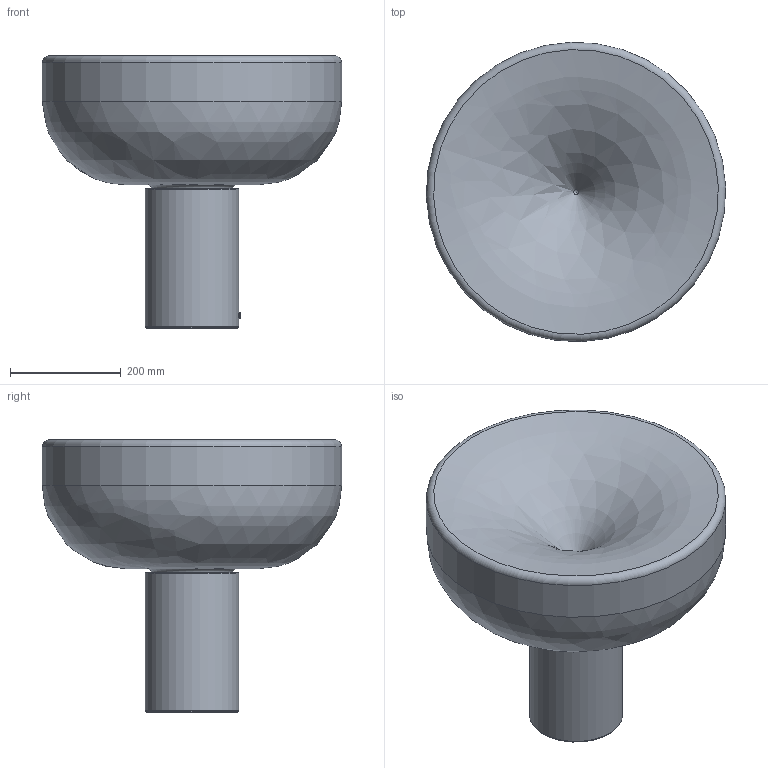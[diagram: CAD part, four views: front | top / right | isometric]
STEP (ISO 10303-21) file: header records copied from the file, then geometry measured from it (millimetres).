
FILE_DESCRIPTION(/* description */ ('AELLA T54'),/* implementation_level */ '2;1');
FILE_NAME(/* name */ '00500MT1LD0 - AELLA T54 - SEMPLIFICATA.stp',/* time_stamp */ '2023-05-03T12:29:23+02:00',/* author */ ('davide.turci'),/* organization */ (''),/* preprocessor_version */ 'ST-DEVELOPER v19.2',/* originating_system */ 'Autodesk Inventor 2023',/* authorisation */ '');
FILE_SCHEMA (('AUTOMOTIVE_DESIGN { 1 0 10303 214 3 1 1 }'));
Length unit declared in the file: millimetre
Products named in the file (14): 00500MT1LD0; 00500C191; 00500C191_1; PERNO A PRESSIONE M4 H30 TIPO SPECIALINSERT CP30 0 040 12; 00500C006; 00500C005; 00500C005_1; DISTANZIALE PRESSIONE M3 H8 FIL. PASS. TIPO SPECIALINSERT DP08 1 030 
12; 00500C001-A; B002; 00500V004-B; PIEDINO Ø8 H2.5 - STEAB 6500-8 - TIPO 3 - nero; 00500C007; VITE TESTA CILINDRICA STEAB 5074-05 M3X0,5 H6
Assembly tree (18 placements, depth 3):
  00500MT1LD0
    00500C191
      00500C191_1
      PERNO A PRESSIONE M4 H30 TIPO SPECIALINSERT CP30 0 040 12  x2
    00500C006
    00500C005
      00500C005_1
      DISTANZIALE PRESSIONE M3 H8 FIL. PASS. TIPO SPECIALINSERT DP08 1 030 
12  x2
    00500C001-A
    B002
    00500V004-B
    PIEDINO Ø8 H2.5 - STEAB 6500-8 - TIPO 3 - nero  x3
    00500C007
    VITE TESTA CILINDRICA STEAB 5074-05 M3X0,5 H6  x2
Bounding box: 539.64 x 539.64 x 490.48 mm (x, y, z)
Volume: 5060275 mm3; surface area: 1927141.2 mm2
Topology: 16 solids, 16 shells, 161 faces, 329 edges, 214 vertices
Faces by surface type: plane 71, cylinder 63, torus 15, cone 6, bspline 4, sphere 2
Full cylindrical faces by diameter (mm): 2.459 x2, 3 x2, 3.5 x6, 4 x4, 4.8 x3, 5 x3, 5.38 x2, 5.4 x2, 5.5 x2, 6 x2, 7 x1, 8 x3, 10 x1, 10.5 x3, 11.5 x2, 12 x1, 106 x1, 132.5 x1, 145 x1, 155 x1, 158 x1, 160.3 x1, 164 x1, 166 x1, 168.3 x2, 528 x1, 540 x1
Entity records: 4121 total; most frequent: CARTESIAN_POINT 731, DIRECTION 683, ORIENTED_EDGE 494, AXIS2_PLACEMENT_3D 294, EDGE_CURVE 247, EDGE_LOOP 171, VERTEX_POINT 162, CIRCLE 144
